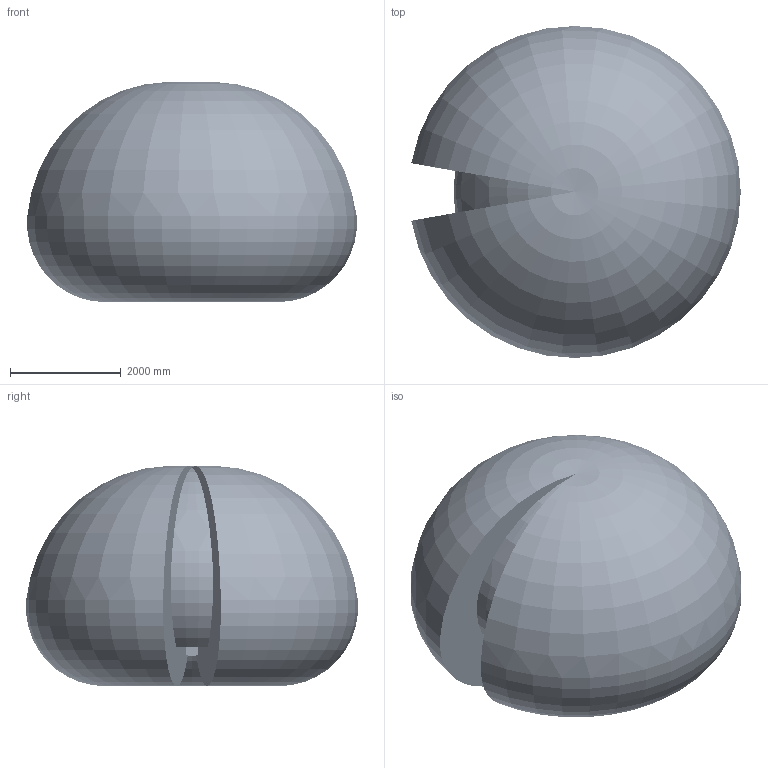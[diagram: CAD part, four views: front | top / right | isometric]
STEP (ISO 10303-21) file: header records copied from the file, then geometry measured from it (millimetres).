
FILE_DESCRIPTION (( 'STEP AP214' ), '1' );
FILE_NAME ('IRB6740-LID-SW_230kg-300_OC_02_ASM_CAD.step', '2026-05-07T13:20:55', ( '' ), ( '' ), 'SwSTEP 2.0', 'SolidWorks 2024', '' );
FILE_SCHEMA (( 'AUTOMOTIVE_DESIGN' ));
Length unit declared in the file: millimetre
Products named in the file (20): IRB6740-LID_230kg-300_OC_00_LINK05_CABLE; IRB6740-LID_230kg-300_OC_00_LINK02_CAD; IRB6740-LID_230kg-300_OC_00_LINK04_CABLE; IRB6740-LID_230kg-300_OC_02_LINK06_CABLE; IRB6740-LID_230kg-300_OC_00_LINK02m_CABLE; IRB6740-LID_230kg-300_OC_00_LINK04_CAD; IRB6740-LID-SW_230kg-300_OC_00_LINK01_CABLE; IRB6740-LID_230kg-300_OC_00_LINK01m_CABLE; IRB6740-LID_230kg-300_OC_00_BASE_CAD; IRB6740-LID_230kg-300_OC_00_ROD_CAD; IRB6740-LID-SW_230kg-300_OC_02_ASM_CAD; IRB6740-LID-SW_230kg-300_OC_00_LINK03a_CABLE; IRB6740-LID_230kg-300_OC_00_Working-space; IRB6740-LID_230kg-300_OC_02_LINK05_CAD; IRB6740-LID-SW_230kg-300_OC_00_LINK02_CABLE; IRB6740-LID_230kg-300_OC_00_CYL_CAD; IRB6740-LID_230kg-300_OC_00_LINK01_CAD; IRB6740-LID_230kg-300_OC_00_LINK03m_CABLE; IRB6740-LID-SW_230kg-300_OC_00_LINK03b_CABLE; IRB6740-LID_230kg-300_OC_00_LINK03_CAD
Assembly tree (19 placements, depth 2):
  IRB6740-LID-SW_230kg-300_OC_02_ASM_CAD
    IRB6740-LID_230kg-300_OC_00_BASE_CAD
    IRB6740-LID_230kg-300_OC_00_CYL_CAD
    IRB6740-LID_230kg-300_OC_00_LINK01_CAD
    IRB6740-LID_230kg-300_OC_00_LINK02_CAD
    IRB6740-LID_230kg-300_OC_00_LINK03_CAD
    IRB6740-LID_230kg-300_OC_00_LINK04_CAD
    IRB6740-LID_230kg-300_OC_00_ROD_CAD
    IRB6740-LID_230kg-300_OC_00_LINK01m_CABLE
    IRB6740-LID_230kg-300_OC_00_LINK02m_CABLE
    IRB6740-LID_230kg-300_OC_00_LINK03m_CABLE
    IRB6740-LID_230kg-300_OC_00_LINK04_CABLE
    IRB6740-LID_230kg-300_OC_00_LINK05_CABLE
    IRB6740-LID-SW_230kg-300_OC_00_LINK01_CABLE
    IRB6740-LID-SW_230kg-300_OC_00_LINK02_CABLE
    IRB6740-LID-SW_230kg-300_OC_00_LINK03a_CABLE
    IRB6740-LID-SW_230kg-300_OC_00_LINK03b_CABLE
    IRB6740-LID_230kg-300_OC_00_Working-space
    IRB6740-LID_230kg-300_OC_02_LINK05_CAD
    IRB6740-LID_230kg-300_OC_02_LINK06_CABLE
Bounding box: 5939.61 x 5985.07 x 3970.28 mm (x, y, z)
Volume: 73904370016.1 mm3; surface area: 134090837.9 mm2
Topology: 21 solids, 56 shells, 9020 faces, 23182 edges, 14976 vertices
Faces by surface type: plane 5025, cylinder 1957, cone 1001, bspline 692, torus 301, sphere 44
Full cylindrical faces by diameter (mm): 0.1 x1, 2.5 x1, 3.3 x2, 4 x2, 4.4 x2, 5 x23, 5.2 x4, 5.45 x1, 6 x4, 6.5 x2, 6.6 x4, 6.8 x28, 7 x14, 8 x6, 8.3 x2, 8.5 x21, 8.8 x2, 9.5 x4, 9.8 x4, 9.9 x2, 10 x26, 10.2 x17, 10.22 x24, 10.5 x10, 11 x8, 11.05 x2, 11.8 x4, 12 x42, 13 x41, 13.27 x18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
Entity records: 466690 total; most frequent: CARTESIAN_POINT 166980, ORIENTED_EDGE 42330, DIRECTION 38143, EDGE_CURVE 21165, VERTEX_POINT 14354, AXIS2_PLACEMENT_3D 13813, EDGE_LOOP 11329, LINE 10517
